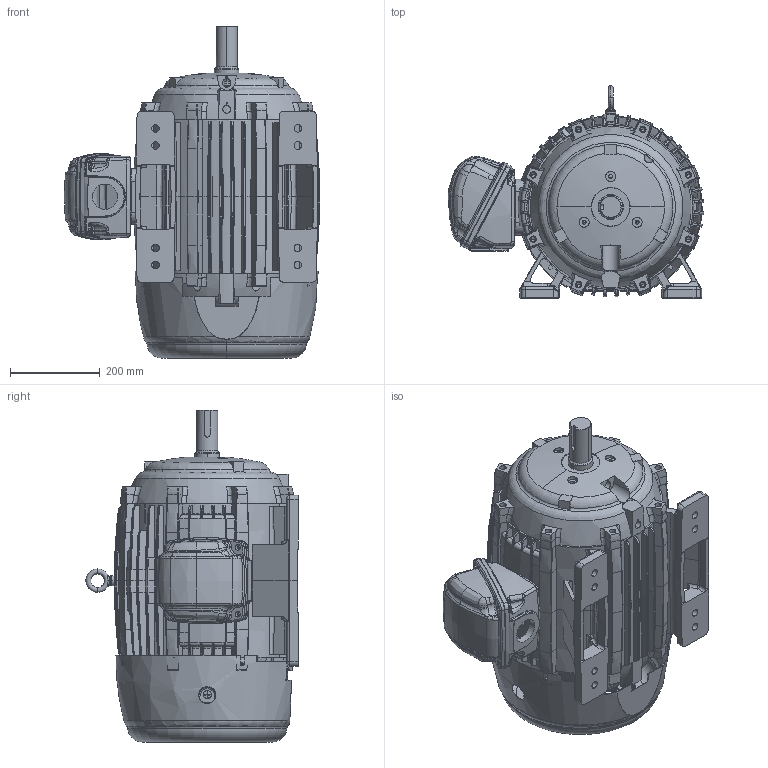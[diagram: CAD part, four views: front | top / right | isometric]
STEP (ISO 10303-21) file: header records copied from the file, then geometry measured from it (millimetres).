
FILE_DESCRIPTION((''),'2;1');
FILE_NAME('320_GP_ASSY_ASM','2014-06-19T',('emd2341'),('Nidec Motor Corporation'),'PRO/ENGINEER BY PARAMETRIC TECHNOLOGY CORPORATION, 2013150','PRO/ENGINEER BY PARAMETRIC TECHNOLOGY CORPORATION, 2013150','');
FILE_SCHEMA(('CONFIG_CONTROL_DESIGN'));
Length unit declared in the file: inch
Products named in the file (10): 0459276; 0076217-BKT; 1000127-OP11; 0133166; 0165757; 0110307; 0380737; 0116263; 0348537; 320_GP_ASSY_ASM
Assembly tree (9 placements, depth 2):
  320_GP_ASSY_ASM
    0459276
    0076217-BKT
    1000127-OP11
    0133166
    0165757
    0110307
    0380737
    0116263
    0348537
Bounding box: 570.13 x 473.68 x 740.62 mm (x, y, z)
Volume: 17682324.7 mm3; surface area: 3559671.5 mm2
Topology: 11 solids, 11 shells, 3873 faces, 10065 edges, 6192 vertices
Faces by surface type: bspline 1641, plane 1061, cylinder 582, torus 284, cone 226, revolution 42, extrusion 23, sphere 14
Entity records: 178248 total; most frequent: CARTESIAN_POINT 96506, ORIENTED_EDGE 20036, DIRECTION 12105, EDGE_CURVE 10018, VERTEX_POINT 6192, B_SPLINE_CURVE_WITH_KNOTS 4760, AXIS2_PLACEMENT_3D 4531, EDGE_LOOP 4196
